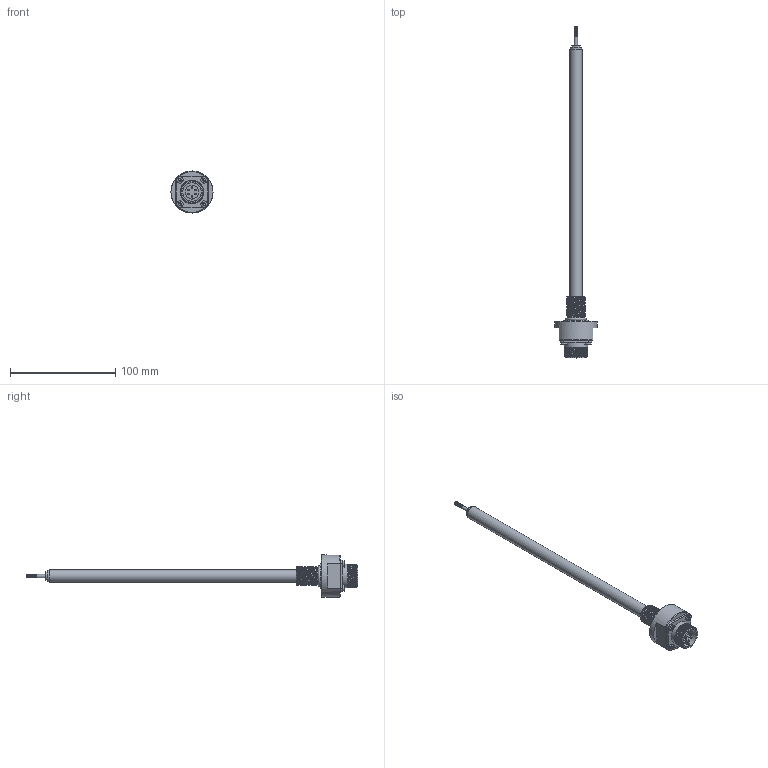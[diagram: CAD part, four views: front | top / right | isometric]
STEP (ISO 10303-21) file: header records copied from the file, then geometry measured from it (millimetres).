
FILE_DESCRIPTION( ( 'Unknown' ), '1' );
FILE_NAME( 'N:/Engineering/CAD/LVDT/HYD/Kunden-3D-Modell/SM140-HYD-18-S.stp', 'Unknown', ( 'Unknown' ), ( 'Unknown' ), 'PSStep 17.0.49', 'Unknown', ' ' );
FILE_SCHEMA( ( 'AUTOMOTIVE_DESIGN { 1 0 10303 214 1 1 1 1 }' ) );
Length unit declared in the file: millimetre
Products named in the file (9): Assem1; Endkappe; Innenrohr_SM5-HYD; Kernverlängerung_SM5-HYD; SM-HYD-Flansch_M18_vereinfacht; O-Ring_15,4x2,1; MIL-Stecker_2; DIN7985_M3-6_Torx; Aussenrohr_SM140-HYD_vereinfacht
Assembly tree (11 placements, depth 2):
  Assem1
    Endkappe
    Innenrohr_SM5-HYD
    Kernverlängerung_SM5-HYD
    SM-HYD-Flansch_M18_vereinfacht
    O-Ring_15,4x2,1
    MIL-Stecker_2
    DIN7985_M3-6_Torx  x4
    Aussenrohr_SM140-HYD_vereinfacht
Bounding box: 40 x 315.9 x 40 mm (x, y, z)
Volume: 58900.1 mm3; surface area: 27878.7 mm2
Topology: 11 solids, 11 shells, 255 faces, 589 edges, 385 vertices
Faces by surface type: plane 132, cylinder 82, cone 22, bspline 14, sphere 4, torus 1
Full cylindrical faces by diameter (mm): 1.4 x6, 1.6 x6, 2.013 x1, 2.4 x1, 2.5 x8, 3 x9, 4 x1, 6 x6, 8 x1, 10 x1, 11 x2, 12 x3, 13 x1, 15.8 x1, 17.6 x1, 18.8 x1, 20.2 x1, 22.3 x7, 24 x1, 40 x1
Entity records: 13563 total; most frequent: CARTESIAN_POINT 8176, DIRECTION 792, ORIENTED_EDGE 656, AXIS2_PLACEMENT_3D 336, EDGE_CURVE 328, EDGE_LOOP 289, VERTEX_POINT 255, FACE_OUTER_BOUND 236
